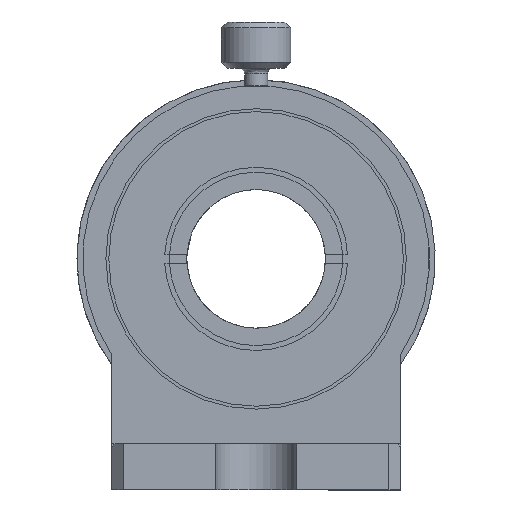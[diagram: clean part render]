
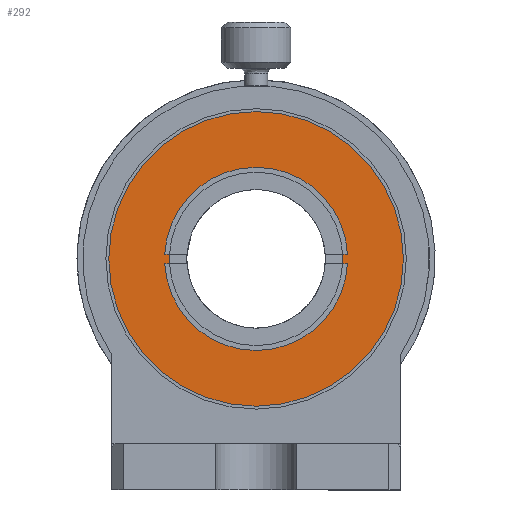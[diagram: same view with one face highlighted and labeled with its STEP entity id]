
A CAD part, left-side view. The second image highlights one B-rep face of the part: STEP entity #292.
In plain terms, the highlighted planar face has unit normal (-1, 0, 0).
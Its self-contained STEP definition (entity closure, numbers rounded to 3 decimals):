
#182=CARTESIAN_POINT('',(-1.5,12.75,20.0));
#183=VERTEX_POINT('',#182);
#184=CARTESIAN_POINT('',(-1.5,0.0,20.0));
#185=DIRECTION('',(-1.0,0.0,0.0));
#186=DIRECTION('',(0.0,-1.0,0.0));
#187=AXIS2_PLACEMENT_3D('',#184,#185,#186);
#188=CIRCLE('',#187,12.75);
#189=EDGE_CURVE('',#183,#183,#188,.T.);
#214=CARTESIAN_POINT('',(-1.5,0.0,20.0));
#215=DIRECTION('',(-1.0,0.0,0.0));
#216=DIRECTION('',(0.0,0.0,1.0));
#217=AXIS2_PLACEMENT_3D('',#214,#215,#216);
#218=PLANE('',#217);
#219=ORIENTED_EDGE('',*,*,#189,.T.);
#220=EDGE_LOOP('',(#219));
#221=FACE_OUTER_BOUND('',#220,.T.);
#222=CARTESIAN_POINT('',(-1.5,7.915,19.6));
#223=VERTEX_POINT('',#222);
#224=CARTESIAN_POINT('',(-1.5,7.489,19.6));
#225=VERTEX_POINT('',#224);
#226=CARTESIAN_POINT('',(-1.5,7.915,19.6));
#227=DIRECTION('',(0.0,-1.0,0.0));
#228=VECTOR('',#227,0.426);
#229=LINE('',#226,#228);
#230=EDGE_CURVE('',#223,#225,#229,.T.);
#231=ORIENTED_EDGE('',*,*,#230,.T.);
#232=CARTESIAN_POINT('',(-1.5,7.489,20.4));
#233=VERTEX_POINT('',#232);
#234=CARTESIAN_POINT('',(-1.5,0.0,20.0));
#235=DIRECTION('',(1.0,0.0,0.0));
#236=DIRECTION('',(0.0,0.0,-1.0));
#237=AXIS2_PLACEMENT_3D('',#234,#235,#236);
#238=CIRCLE('',#237,7.5);
#239=EDGE_CURVE('',#225,#233,#238,.T.);
#240=ORIENTED_EDGE('',*,*,#239,.T.);
#241=CARTESIAN_POINT('',(-1.5,7.915,20.4));
#242=VERTEX_POINT('',#241);
#243=CARTESIAN_POINT('',(-1.5,7.489,20.4));
#244=DIRECTION('',(0.0,1.0,0.0));
#245=VECTOR('',#244,0.426);
#246=LINE('',#243,#245);
#247=EDGE_CURVE('',#233,#242,#246,.T.);
#248=ORIENTED_EDGE('',*,*,#247,.T.);
#249=CARTESIAN_POINT('',(-1.5,-7.915,20.4));
#250=VERTEX_POINT('',#249);
#251=CARTESIAN_POINT('',(-1.5,0.0,20.0));
#252=DIRECTION('',(1.0,0.0,0.0));
#253=DIRECTION('',(0.0,-1.0,0.0));
#254=AXIS2_PLACEMENT_3D('',#251,#252,#253);
#255=CIRCLE('',#254,7.925);
#256=EDGE_CURVE('',#242,#250,#255,.T.);
#257=ORIENTED_EDGE('',*,*,#256,.T.);
#258=CARTESIAN_POINT('',(-1.5,-7.489,20.4));
#259=VERTEX_POINT('',#258);
#260=CARTESIAN_POINT('',(-1.5,-7.915,20.4));
#261=DIRECTION('',(0.0,1.0,0.0));
#262=VECTOR('',#261,0.426);
#263=LINE('',#260,#262);
#264=EDGE_CURVE('',#250,#259,#263,.T.);
#265=ORIENTED_EDGE('',*,*,#264,.T.);
#266=CARTESIAN_POINT('',(-1.5,-7.489,19.6));
#267=VERTEX_POINT('',#266);
#268=CARTESIAN_POINT('',(-1.5,0.0,20.0));
#269=DIRECTION('',(1.0,0.0,0.0));
#270=DIRECTION('',(0.0,0.0,-1.0));
#271=AXIS2_PLACEMENT_3D('',#268,#269,#270);
#272=CIRCLE('',#271,7.5);
#273=EDGE_CURVE('',#259,#267,#272,.T.);
#274=ORIENTED_EDGE('',*,*,#273,.T.);
#275=CARTESIAN_POINT('',(-1.5,-7.915,19.6));
#276=VERTEX_POINT('',#275);
#277=CARTESIAN_POINT('',(-1.5,-7.489,19.6));
#278=DIRECTION('',(0.0,-1.0,0.0));
#279=VECTOR('',#278,0.426);
#280=LINE('',#277,#279);
#281=EDGE_CURVE('',#267,#276,#280,.T.);
#282=ORIENTED_EDGE('',*,*,#281,.T.);
#283=CARTESIAN_POINT('',(-1.5,0.0,20.0));
#284=DIRECTION('',(1.0,0.0,0.0));
#285=DIRECTION('',(0.0,-1.0,0.0));
#286=AXIS2_PLACEMENT_3D('',#283,#284,#285);
#287=CIRCLE('',#286,7.925);
#288=EDGE_CURVE('',#276,#223,#287,.T.);
#289=ORIENTED_EDGE('',*,*,#288,.T.);
#290=EDGE_LOOP('',(#231,#240,#248,#257,#265,#274,#282,#289));
#291=FACE_BOUND('',#290,.T.);
#292=ADVANCED_FACE('',(#221,#291),#218,.T.);
